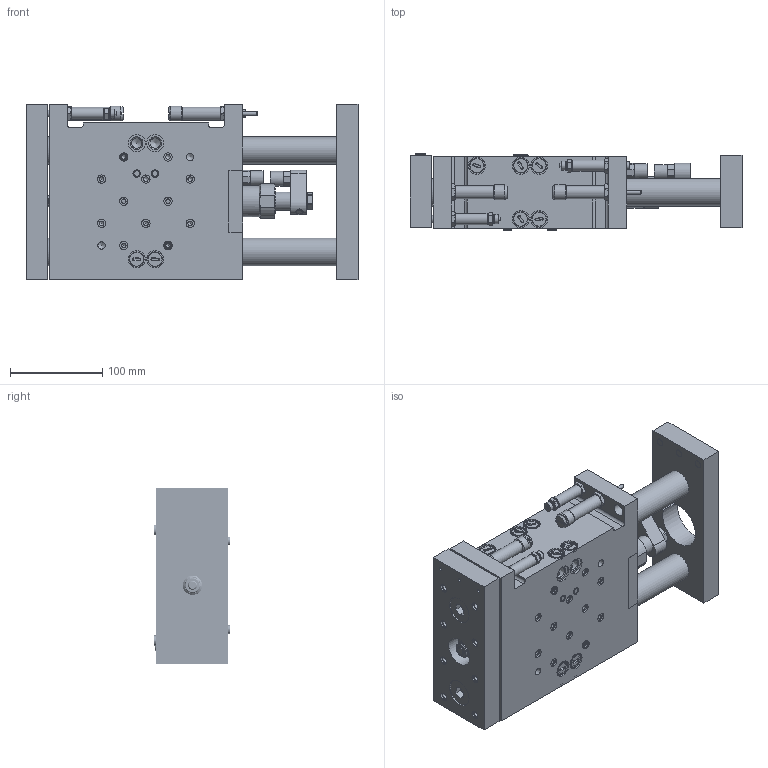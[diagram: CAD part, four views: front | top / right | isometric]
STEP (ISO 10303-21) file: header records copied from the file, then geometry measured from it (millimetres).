
FILE_DESCRIPTION((''),'2;1');
FILE_NAME('V:\CAD\Inventor-Stp\Linearelemente\Kugelbüchsenführungen\GLE 32\inv\1000045\1000045.stp','2007-05-29T07:48:58',('is'),(''),'Autodesk Inventor 10','Autodesk Inventor 10','');
FILE_SCHEMA(('AUTOMOTIVE_DESIGN { 1 0 10303 214 1 1 1 1 }'));
Length unit declared in the file: millimetre
Products named in the file (3): 1000045; 1000045-b; 1000045-a
Assembly tree (2 placements, depth 2):
  1000045
    1000045-b
    1000045-a
Bounding box: 360 x 82.9 x 190 mm (x, y, z)
Volume: 3186798.7 mm3; surface area: 542671.3 mm2
Topology: 77 solids, 90 shells, 1740 faces, 3831 edges, 2467 vertices
Faces by surface type: plane 626, bspline 487, cylinder 303, cone 241, torus 83
Full cylindrical faces by diameter (mm): 1 x4, 1.4 x2, 1.97 x2, 2 x8, 2.3 x2, 3.4 x2, 3.5 x2, 3.6 x2, 4 x8, 4.2 x2, 4.3 x2, 5 x9, 5.5 x1, 6 x3, 6.8 x2, 7.2 x2, 7.3 x2, 7.4 x2, 7.8 x2, 8 x13, 8.2 x2, 8.4 x2, 8.5 x4, 9 x6, 9.2 x2, 9.7 x4, 10 x6, 10.5 x1, 11 x2, 11.4 x15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
Entity records: 50036 total; most frequent: CARTESIAN_POINT 18414, DIRECTION 6280, ORIENTED_EDGE 5208, EDGE_LOOP 3004, AXIS2_PLACEMENT_3D 2740, EDGE_CURVE 2604, VERTEX_POINT 2079, FACE_OUTER_BOUND 1737
